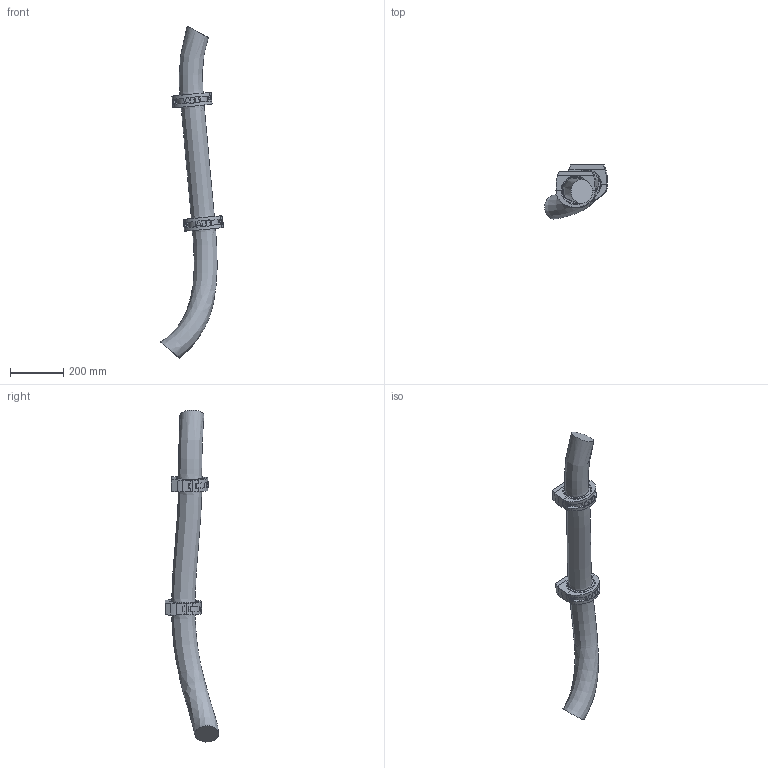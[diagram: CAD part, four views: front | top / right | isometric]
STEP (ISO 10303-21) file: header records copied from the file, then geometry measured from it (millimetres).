
FILE_DESCRIPTION (( 'STEP AP214' ), '1' );
FILE_NAME ('IRB6750S-ALL-OC_00_LINK02_CABLE.step', '2026-05-13T05:27:27', ( '' ), ( '' ), 'SwSTEP 2.0', 'SolidWorks 2024', '' );
FILE_SCHEMA (( 'AUTOMOTIVE_DESIGN' ));
Length unit declared in the file: millimetre
Products named in the file (1): IRB6750S-ALL-OC_00_LINK02_CABLE
Bounding box: 236.82 x 202.86 x 1250.42 mm (x, y, z)
Volume: 8929092.7 mm3; surface area: 445560.5 mm2
Topology: 1 solids, 3 shells, 213 faces, 557 edges, 364 vertices
Faces by surface type: plane 142, cylinder 42, bspline 11, sphere 10, cone 8
Full cylindrical faces by diameter (mm): 6 x4, 10.22 x4, 90 x4
Entity records: 11422 total; most frequent: CARTESIAN_POINT 4114, ORIENTED_EDGE 1064, DIRECTION 952, EDGE_CURVE 532, VERTEX_POINT 354, AXIS2_PLACEMENT_3D 335, VECTOR 282, LINE 282
